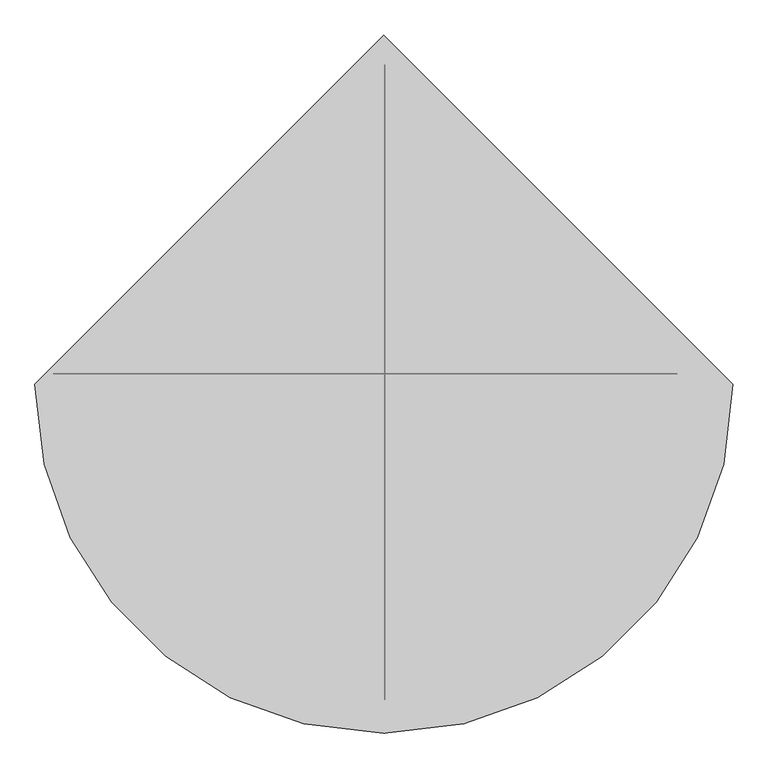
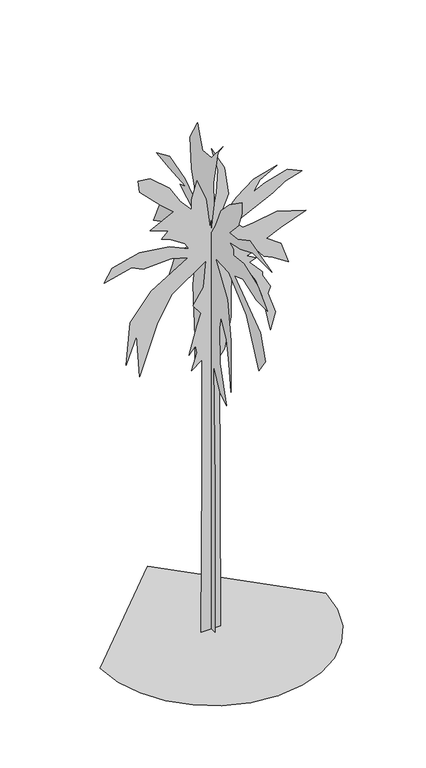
"""IFC4 building model written with IfcOpenShell, lengths in millimetres: geographic element geometry, Vegetacion PAEMFE : EXISTENTE A MANTENER."""

from ifc_helpers import new_model, si_unit, origin, place, context, project, spatial, triangles, source, transform, mapped, element, save


def geographic_element_9d816cce(model_context):
    return source(origin(), model_context, "Body", "Tessellation", [
        triangles([(-71.3682637, -0.022954, 0.0012385), (-196.9054775, -0.0229651, 0.001244), (-171.7978349, -0.0235409, 3273.8167397), (-171.7974897, -0.0239405, 5508.3608688), (-372.6562869, -0.0239048, 5357.7282028), (-272.2280601, -0.0239675, 5684.1274658), (-297.3347035, -0.0239933, 5834.7607132), (-422.8729165, -0.0239609, 5684.1274658), (-272.2277331, -0.0240663, 6236.49375), (-196.9051323, -0.02411, 6462.4601898), (-347.5496435, -0.0241393, 6663.3264175), (-146.6905193, -0.024202, 6964.5929123), (-96.4755702, -0.0242984, 7491.8589844), (-749.2692364, -0.0241891, 7039.9261047), (-1025.448963, -0.0240917, 6562.8935944), (-1376.9553417, -0.0239013, 5583.6946426), (-1427.1685558, -0.0240517, 6437.3599777), (-1628.0283886, -0.0239486, 5910.0939056), (-1552.7084221, -0.0241001, 6738.6264725), (-1150.9888292, -0.0242074, 7240.7929138), (-447.9795599, -0.0243145, 7667.6255814), (-774.3759161, -0.0243182, 7768.0589859), (-1301.6320324, -0.0242907, 7742.9256363), (-1527.5984722, -0.0242987, 7843.3590408), (-2054.8546612, -0.0242532, 7717.8254242), (-1904.2113853, -0.0243047, 7968.8920761), (-1376.9553417, -0.0243502, 8094.4588303), (-799.4825232, -0.024362, 8019.1250565), (-422.8729165, -0.024347, 7843.3590408), (-498.1961532, -0.0243662, 7968.8920761), (-799.4825232, -0.0243889, 8169.7583038), (-950.1290691, -0.0243913, 8219.9918655), (-824.592473, -0.0244193, 8345.5249008), (-1176.095509, -0.0244263, 8471.0579361), (-724.1626293, -0.0244865, 8697.0243759), (-975.2356762, -0.0245159, 8922.9908157), (-1376.9553417, -0.0245702, 9324.7238525), (-1402.0619488, -0.0246095, 9550.6902924), (-1176.095509, -0.0246149, 9525.5569427), (-799.4825232, -0.024573, 9199.1576797), (-598.6227267, -0.0245234, 8872.7578354), (-372.6562869, -0.0244884, 8621.6911835), (-372.6562869, -0.0245243, 8822.5579926), (-272.2277331, -0.0245916, 9174.0574677), (-96.4755702, -0.0245229, 8747.2248001), (-21.1533464, -0.0244185, 8144.6586731), (104.3838992, -0.0245407, 8797.4577805), (129.4915328, -0.0246226, 9249.3906601), (3.954296, -0.0247024, 9726.4237518), (255.0287466, -0.0246281, 9249.3906601), (330.3513474, -0.0245326, 8697.0243759), (104.3838992, -0.0244239, 8144.6586731), (480.9961856, -0.0245167, 8571.4913406), (807.3925055, -0.0245759, 8822.5579926), (1259.3254578, -0.0246181, 8948.0910278), (932.9291016, -0.0245724, 8772.3581497), (807.3925055, -0.024531, 8571.4913406), (1033.3589453, -0.0245588, 8671.9247452), (1460.1851452, -0.0245999, 8797.4577805), (1736.3682873, -0.0245896, 8671.9247452), (1409.9719311, -0.0245573, 8571.4913406), (1184.0054913, -0.0245205, 8420.8249557), (455.8895422, -0.0244258, 8069.3254807), (606.532709, -0.0244055, 7918.6922333), (807.3925055, -0.0244188, 7943.791864), (1259.3254578, -0.024452, 8019.1250565), (1811.6914513, -0.0244447, 7843.3590408), (1334.6486217, -0.0243924, 7667.6255814), (1058.465625, -0.0243579, 7542.0925461), (1334.6486217, -0.0243341, 7341.225737), (1485.2918976, -0.0242643, 6914.3930695), (1184.0054913, -0.0242871, 7115.2592972), (1008.2523382, -0.0242929, 7190.5593521), (807.3925055, -0.024329, 7441.6591415), (807.3925055, -0.0243155, 7366.3259491), (681.855982, -0.024301, 7316.1261063), (857.6057922, -0.0242908, 7215.6927017), (732.0692688, -0.0242763, 7165.4597214), (983.1456585, -0.0242379, 6889.2928574), (983.1456585, -0.0242244, 6813.9596649), (1133.7888617, -0.0241816, 6537.7933823), (1083.5755749, -0.024157, 6412.260347), (1234.2187054, -0.0240872, 5985.4270981), (1133.7888617, -0.0240245, 5659.0278351), (983.1456585, -0.0241481, 6387.1269974), (857.6057922, -0.0242099, 6763.7598221), (631.6393524, -0.0242674, 7140.3595093), (405.6729126, -0.0242755, 7240.7929138), (380.5662692, -0.0241846, 6738.6264725), (380.5662692, -0.0240858, 6186.2939072), (255.0287466, -0.0239726, 5583.6946426), (154.5988483, -0.0239458, 5458.161026), (179.7061458, -0.0229726, 0.0012275), (-0.0048661, 117.5835478, 0.0006495), (-0.0048666, 214.7421249, 0.0006669), (-0.0048662, 214.7421249, 2397.3475639), (-0.0048635, 190.4528008, 5627.8611328), (-0.0048656, 287.6107149, 5482.1275864), (-0.0048631, 530.5061359, 4972.0284897), (-0.004865, 530.5061359, 5579.2943298), (-0.0048646, 603.3760703, 6599.459967), (-0.0048665, 506.2161578, 7303.8594131), (-0.0048676, 700.5326036, 7085.2262466), (-0.0048645, 1040.5889545, 6380.8268005), (-0.004864, 1429.2219189, 5895.0605209), (-0.0048667, 1720.6949707, 5433.5613647), (-0.004865, 1380.64189, 6356.5602585), (-0.0048654, 1162.0355387, 6890.9264786), (-0.0048654, 676.2426619, 7376.7258957), (-0.0048674, 894.8490858, 7328.1259552), (-0.0048652, 1186.3254805, 7303.8594131), (-0.0048656, 1453.5118607, 7352.4262161), (-0.0048656, 1915.0147957, 7109.5265076), (-0.0048671, 1672.1182846, 7643.8921463), (-0.0048645, 1404.9319771, 7643.8921463), (-0.0048649, 1307.7720646, 8056.8250809), (-0.0048656, 846.2724724, 7959.6589188), (-0.0048673, 554.7961141, 8105.3918839), (-0.0048675, 1040.5889545, 8372.5918533), (-0.0048634, 846.2724724, 8445.4583359), (-0.0048663, 1380.64189, 8494.0245575), (-0.0048641, 1817.8548832, 8542.6250793), (-0.0048652, 1380.64189, 8736.9248474), (-0.0048654, 870.5624868, 8591.191301), (-0.0048678, 457.6362016, 8299.7247894), (-0.0048649, 651.9559902, 8931.257753), (-0.0048646, 700.5326036, 9538.4904556), (-0.0048656, 457.6362016, 9975.6899323), (-0.0048646, 409.0595881, 9829.9569672), (-0.0048648, 287.6107149, 9514.1907761), (-0.004867, -3.8642627, 9538.4904556), (-0.0048638, -392.4962823, 9999.9896118), (-0.0048659, -222.4707775, 9781.3901642), (-0.0048666, -76.7329253, 9076.9907181), (-0.0048668, -101.0225673, 8664.0577835), (-0.0048675, 20.4252794, 7983.9585983), (-0.0048632, -149.6021875, 8251.1248489), (-0.0048669, -319.6290004, 8664.0577835), (-0.0048669, -611.1027426, 8955.524295), (-0.0048674, -1024.0256487, 9247.0239441), (-0.0048675, -1024.0256487, 9028.3907776), (-0.0048665, -902.5790646, 8712.657724), (-0.0048676, -611.1027426, 8396.8915329), (-0.004864, -878.2891228, 8421.158075), (-0.0048677, -1291.2120289, 8639.7581039), (-0.0048654, -2019.9012714, 8445.4583359), (-0.0048662, -1388.3719414, 8445.4583359), (-0.0048651, -975.4490353, 8275.4251099), (-0.0048666, -611.1027426, 8202.5586273), (-0.0048656, -732.5525969, 8129.6921448), (-0.0048662, -732.5525969, 8008.2588593), (-0.0048657, -1096.8955467, 8056.8250809), (-0.0048649, -1558.3984818, 7886.7918549), (-0.0048641, -1874.1614754, 7571.0256638), (-0.0048671, -1509.8184528, 7571.0256638), (-0.0048643, -1048.3155905, 7716.7592102), (-0.0048663, -781.1325531, 7619.6256042), (-0.0048647, -1631.2683071, 6988.093222), (-0.0048649, -1801.2948475, 6502.2932236), (-0.0048644, -1582.6884235, 6186.5270325), (-0.004865, -1169.7655174, 7060.9597046), (-0.0048647, -586.8160709, 7571.0256638), (-0.0048635, -149.6021875, 7595.3259247), (-0.0048643, -538.2361147, 6988.093222), (-0.0048646, -659.6826988, 6235.0938354), (-0.0048676, -659.6826988, 5190.6616562), (-0.0048648, -586.8160709, 5725.0278763), (-0.0048662, -513.9461366, 6162.2273529), (-0.0048665, -319.6290004, 6502.2932236), (-0.0048655, -271.0497345, 6259.393515), (-0.0048642, -295.3393674, 5554.9946503), (-0.0048677, -513.9461366, 4826.2952339), (-0.004866, -295.3393674, 4972.0284897), (-0.0048668, -76.7329253, 5384.9614243), (-0.004864, -125.3125455, 3004.5869522), (-0.0048673, -125.3125455, 0.0006061), (-2169.4178719, -64.4739352, 0.0007118), (-2112.2212177, -560.2027608, 0.0006207), (-1949.3281082, -1015.4523348, 0.0005322), (-1693.7816425, -1417.1786133, 0.0004491), (-1358.6253559, -1752.3348999, 0.0003746), (-956.8990774, -2007.8813656, 0.0003113), (-501.6528462, -2170.7744751, 0.0002623), (-5.9214943, -2227.9711292, 0.0002304), (489.8094921, -2170.7744751, 0.0002189), (945.055687, -2007.8813656, 0.0002282), (1346.7820381, -1752.3348999, 0.0002563), (1681.9383247, -1417.1786133, 0.0003016), (1937.4847904, -1015.4523348, 0.0003623), (2100.3778999, -560.2027608, 0.0004365), (2157.5745541, -64.4739352, 0.0005227), (-5.9218939, 2099.0212967, 0.0003973)], [[54, 55, 56], [48, 49, 50], [17, 18, 19], [15, 16, 17], [7, 8, 9], [83, 84, 85], [82, 83, 85], [4, 5, 6], [70, 71, 72], [66, 67, 68], [43, 44, 45], [59, 60, 61], [24, 25, 26], [24, 26, 27], [33, 34, 35], [76, 77, 78], [58, 59, 61], [58, 61, 62], [31, 32, 33], [42, 43, 45], [42, 45, 46], [37, 38, 39], [54, 56, 57], [53, 54, 57], [23, 24, 27], [23, 27, 28], [22, 23, 28], [22, 28, 29], [21, 22, 29], [58, 62, 63], [57, 58, 63], [53, 57, 63], [52, 53, 63], [36, 37, 39], [36, 39, 40], [36, 40, 41], [35, 36, 41], [35, 41, 42], [69, 70, 72], [69, 72, 73], [69, 73, 74], [65, 66, 68], [65, 68, 69], [65, 69, 74], [64, 65, 74], [47, 48, 50], [47, 50, 51], [46, 47, 51], [46, 51, 52], [33, 35, 42], [82, 85, 86], [81, 82, 86], [80, 81, 86], [33, 42, 46], [31, 33, 46], [30, 31, 46], [29, 30, 46], [15, 17, 19], [15, 19, 20], [14, 15, 20], [14, 20, 21], [13, 14, 21], [92, 93, 1], [92, 1, 2], [92, 2, 3], [92, 3, 4], [80, 86, 87], [79, 80, 87], [78, 79, 87], [76, 78, 87], [76, 87, 88], [13, 21, 29], [13, 29, 46], [13, 46, 52], [13, 52, 63], [13, 63, 64], [13, 64, 74], [13, 74, 75], [13, 75, 76], [13, 76, 88], [12, 13, 88], [12, 88, 89], [11, 12, 89], [10, 11, 89], [10, 89, 90], [9, 10, 90], [9, 90, 91], [7, 9, 91], [6, 7, 91], [4, 6, 91], [92, 4, 91], [131, 132, 133], [165, 166, 167], [105, 106, 107], [145, 146, 147], [165, 167, 168], [98, 99, 100], [131, 133, 134], [121, 122, 123], [104, 105, 107], [112, 113, 114], [171, 172, 173], [171, 173, 174], [153, 154, 155], [127, 128, 129], [118, 119, 120], [112, 114, 115], [139, 140, 141], [139, 141, 142], [159, 160, 161], [158, 159, 161], [157, 158, 161], [157, 161, 162], [104, 107, 108], [103, 104, 108], [103, 108, 109], [102, 103, 109], [127, 129, 130], [121, 123, 124], [120, 121, 124], [120, 124, 125], [118, 120, 125], [153, 155, 156], [152, 153, 156], [151, 152, 156], [151, 156, 157], [126, 127, 130], [145, 147, 148], [144, 145, 148], [144, 148, 149], [143, 144, 149], [139, 142, 143], [138, 139, 143], [137, 138, 143], [137, 143, 149], [175, 176, 94], [175, 94, 95], [175, 95, 96], [175, 96, 97], [174, 175, 97], [111, 112, 115], [115, 116, 117], [111, 115, 117], [110, 111, 117], [109, 110, 117], [165, 168, 169], [164, 165, 169], [130, 131, 134], [126, 130, 134], [126, 134, 135], [125, 126, 135], [125, 135, 136], [118, 125, 136], [151, 157, 162], [171, 174, 97], [170, 171, 97], [109, 117, 118], [109, 118, 136], [102, 109, 136], [97, 98, 100], [97, 100, 101], [170, 97, 101], [169, 170, 101], [169, 101, 102], [164, 169, 102], [163, 164, 102], [163, 102, 136], [151, 162, 163], [151, 163, 136], [151, 136, 137], [151, 137, 149], [151, 149, 150], [191, 192, 177], [190, 191, 177], [190, 177, 178], [189, 190, 178], [189, 178, 179], [189, 179, 180], [188, 189, 180], [187, 188, 180], [187, 180, 181], [187, 181, 182], [187, 182, 183], [187, 183, 184], [187, 184, 185], [187, 185, 186]], closed=False),
    ])


if __name__ == "__main__":
    model = new_model("IFC4")
    model_context = context("Model", 3, world=origin())
    ifc_project = project(units=[si_unit("LENGTHUNIT", "METRE", prefix="MILLI")], contexts=[model_context])
    site = spatial("IfcSite", under=ifc_project)
    building = spatial("IfcBuilding", under=site)
    placement = place(None, origin())
    geographic_element_shape = geographic_element_9d816cce(model_context)
    element("IfcGeographicElement", 1, ObjectType="Vegetacion PAEMFE : EXISTENTE A MANTENER", at=placement, inside=building, context=model_context, shape_type="MappedRepresentation", body=[
        mapped(geographic_element_shape, transform((0.0, 0.0, 0.0), x_axis=(1.0, 0.0, 0.0), y_axis=(0.0, 1.0, 0.0), z_axis=(0.0, 0.0, 1.0))),
    ])
    save(model, "model.ifc")
